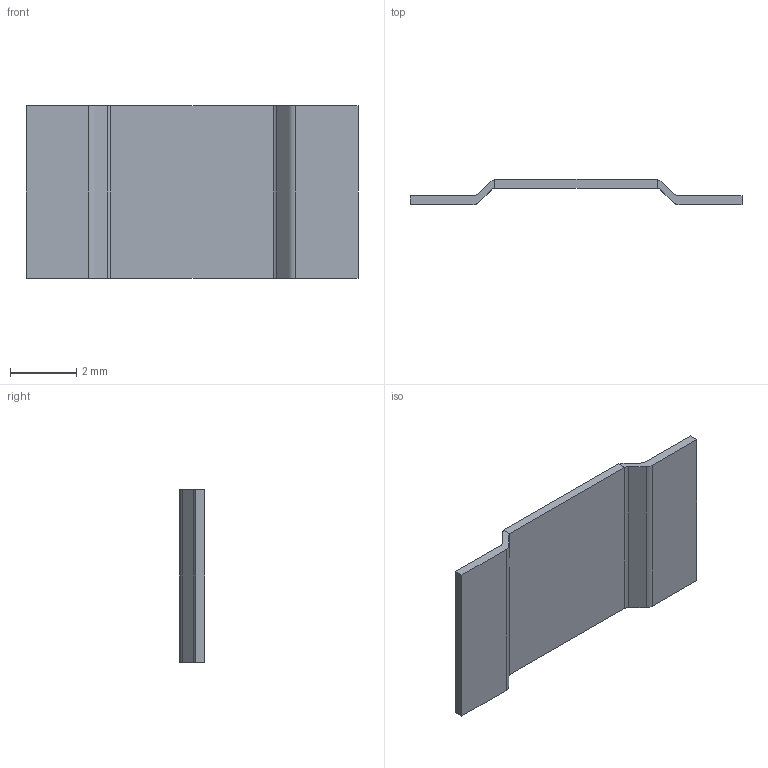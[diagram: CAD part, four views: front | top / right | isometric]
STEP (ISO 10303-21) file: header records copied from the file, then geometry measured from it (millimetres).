
FILE_DESCRIPTION (( 'STEP AP203' ), '1' );
FILE_NAME ('PEWK 3920-5m¦¸.STEP', '2023-11-01T05:33:06', ( 'meks@163.com' ), ( '' ), 'SwSTEP 2.0', 'SolidWorks 2020', '' );
FILE_SCHEMA (( 'CONFIG_CONTROL_DESIGN' ));
Length unit declared in the file: millimetre
Products named in the file (1): PEWK 3920-5m次
Bounding box: 10 x 0.77 x 5.2 mm (x, y, z)
Volume: 14 mm3; surface area: 121.8 mm2
Topology: 3 solids, 3 shells, 146 faces, 390 edges, 260 vertices
Faces by surface type: plane 107, bspline 23, cylinder 16
Entity records: 5965 total; most frequent: CARTESIAN_POINT 2364, ORIENTED_EDGE 780, DIRECTION 624, EDGE_CURVE 390, VECTOR 312, LINE 312, VERTEX_POINT 260, EDGE_LOOP 156
